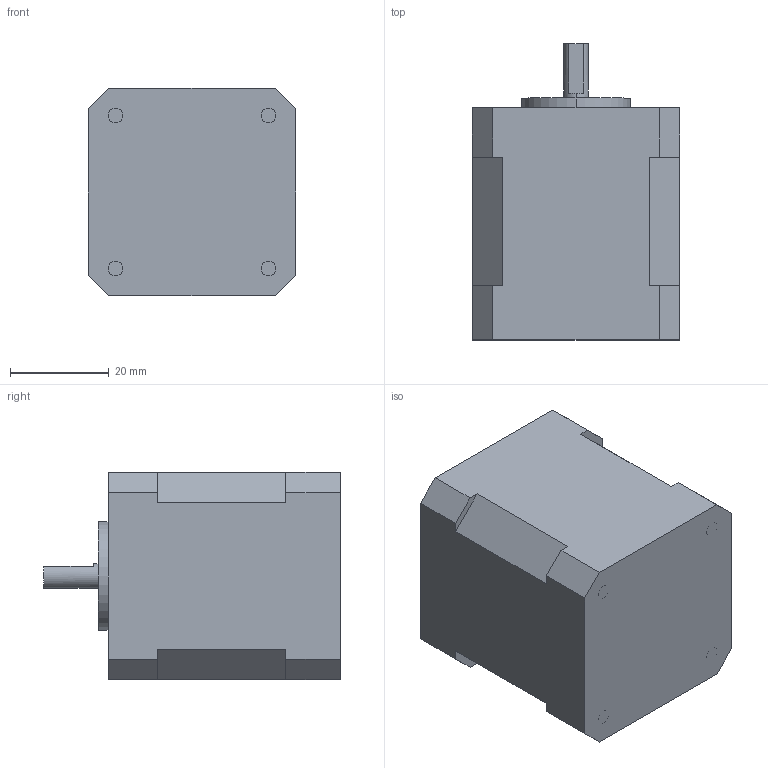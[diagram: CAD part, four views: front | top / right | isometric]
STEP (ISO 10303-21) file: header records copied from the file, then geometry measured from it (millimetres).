
FILE_DESCRIPTION (( 'STEP AP214' ), '1' );
FILE_NAME ('42A03-13£¨42HS47-D0513-013£©.STEP', '2020-04-28T00:06:45', ( 'wimxt.com' ), ( 'wimxt.com' ), 'SwSTEP 2.0', 'SolidWorks 2014', '' );
FILE_SCHEMA (( 'AUTOMOTIVE_DESIGN' ));
Length unit declared in the file: millimetre
Products named in the file (1): 42A03-13（42HS47-D0513-013）
Bounding box: 42 x 60 x 42 mm (x, y, z)
Volume: 79811 mm3; surface area: 12925.4 mm2
Topology: 1 solids, 1 shells, 46 faces, 114 edges, 76 vertices
Faces by surface type: plane 34, cylinder 12
Entity records: 1398 total; most frequent: CARTESIAN_POINT 237, DIRECTION 234, ORIENTED_EDGE 228, EDGE_CURVE 114, LINE 88, VECTOR 88, VERTEX_POINT 76, AXIS2_PLACEMENT_3D 73
